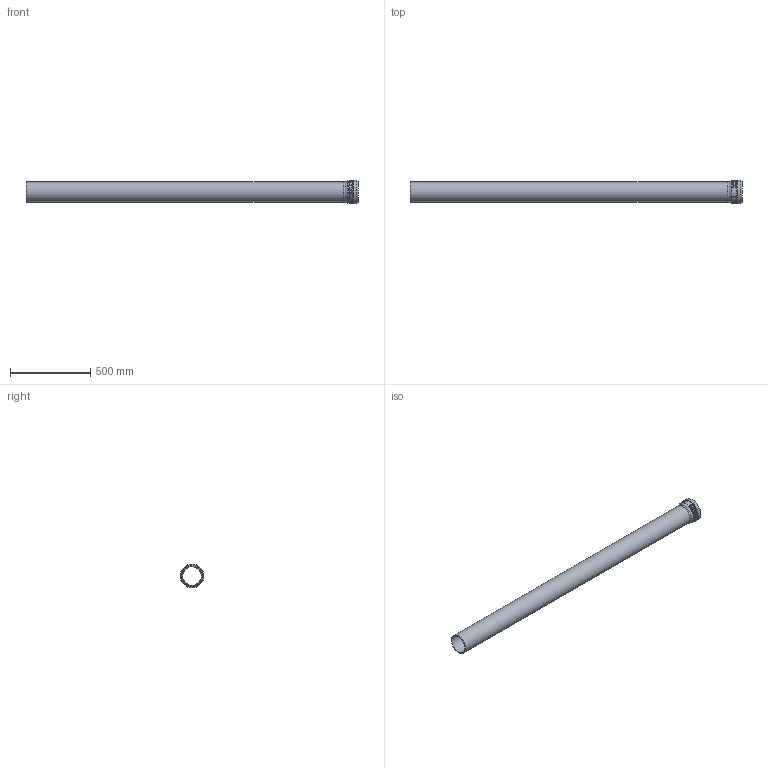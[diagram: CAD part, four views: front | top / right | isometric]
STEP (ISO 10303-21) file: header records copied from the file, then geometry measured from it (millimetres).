
FILE_DESCRIPTION(/* description */ (''),/* implementation_level */ '2;1');
FILE_NAME(/* name */ 'H:\Geberit-Teile\Export\PP_Rohr\stp\393606.stp',/* time_stamp */ '2017-02-13T16:09:53+01:00',/* author */ ('seihe2'),/* organization */ (''),/* preprocessor_version */ 'ST-DEVELOPER v15.2',/* originating_system */ 'Autodesk Inventor 2014',/* authorisation */ '');
FILE_SCHEMA (('AUTOMOTIVE_DESIGN { 1 0 10303 214 3 1 1 }'));
Length unit declared in the file: millimetre
Products named in the file (1): 393606
Bounding box: 2073.9 x 146.35 x 146.35 mm (x, y, z)
Volume: 3945534.1 mm3; surface area: 1599663.8 mm2
Topology: 2 solids, 2 shells, 38 faces, 81 edges, 56 vertices
Faces by surface type: torus 17, cylinder 10, plane 8, cone 2, bspline 1
Full cylindrical faces by diameter (mm): 115.2 x2, 125.2 x2, 126.2 x1, 129.2 x1, 135.2 x1, 137.75 x1, 138.2 x1, 146.35 x1
Entity records: 2345 total; most frequent: CARTESIAN_POINT 1566, DIRECTION 130, ORIENTED_EDGE 124, EDGE_LOOP 69, AXIS2_PLACEMENT_3D 65, EDGE_CURVE 62, VERTEX_POINT 55, STYLED_ITEM 40
